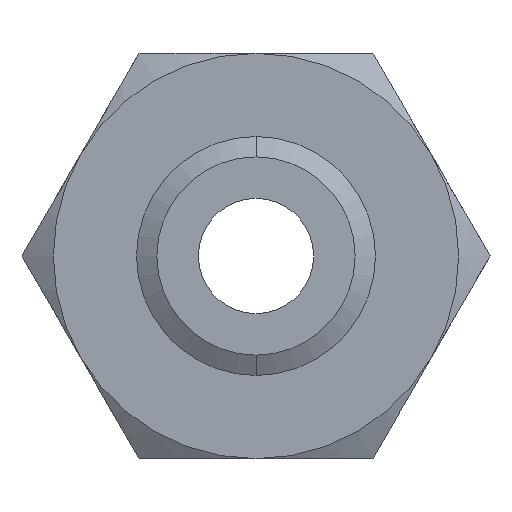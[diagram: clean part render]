
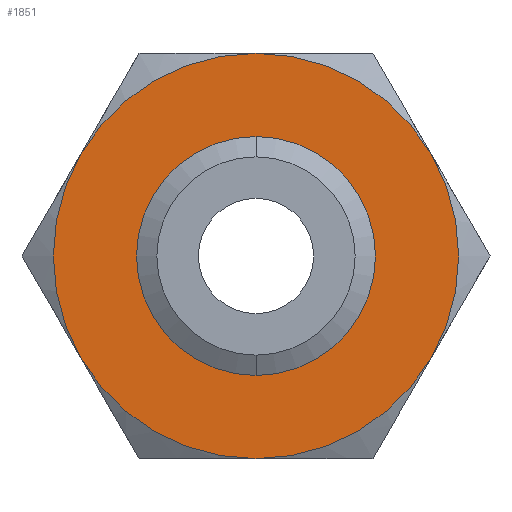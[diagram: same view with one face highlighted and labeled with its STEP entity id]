
A CAD part, front view. The second image highlights one B-rep face of the part: STEP entity #1851.
In plain terms, the highlighted planar face has unit normal (0, -1, 0).
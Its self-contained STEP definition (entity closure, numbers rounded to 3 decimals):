
#31 = EDGE_CURVE ( 'NONE', #233, #232, #314, .T. ) ;
#231 = EDGE_CURVE ( 'NONE', #232, #233, #714, .T. ) ;
#232 = VERTEX_POINT ( 'NONE', #706 ) ;
#233 = VERTEX_POINT ( 'NONE', #705 ) ;
#310 = DIRECTION ( 'NONE',  ( 0., 0., -1. ) ) ;
#311 = DIRECTION ( 'NONE',  ( 0., -1., 0. ) ) ;
#312 = CARTESIAN_POINT ( 'NONE',  ( 0., 0., 0. ) ) ;
#313 = AXIS2_PLACEMENT_3D ( 'NONE', #312, #311, #310 ) ;
#314 = CIRCLE ( 'NONE', #313, 23.237 ) ;
#705 = CARTESIAN_POINT ( 'NONE',  ( 0., 0., 23.237 ) ) ;
#706 = CARTESIAN_POINT ( 'NONE',  ( 0., 0., -23.237 ) ) ;
#707 = DIRECTION ( 'NONE',  ( 0., 0., -1. ) ) ;
#708 = DIRECTION ( 'NONE',  ( 0., -1., 0. ) ) ;
#709 = CARTESIAN_POINT ( 'NONE',  ( 0., 0., 0. ) ) ;
#710 = AXIS2_PLACEMENT_3D ( 'NONE', #709, #708, #707 ) ;
#714 = CIRCLE ( 'NONE', #710, 23.237 ) ;
#828 = CARTESIAN_POINT ( 'NONE',  ( 0., 0., 0. ) ) ;
#829 = CIRCLE ( 'NONE', #891, 47.5 ) ;
#833 = CARTESIAN_POINT ( 'NONE',  ( -41.136, 0., 23.75 ) ) ;
#858 = DIRECTION ( 'NONE',  ( 0., 0., 1. ) ) ;
#859 = DIRECTION ( 'NONE',  ( 0., 1., 0. ) ) ;
#860 = CARTESIAN_POINT ( 'NONE',  ( 0., 0., 0. ) ) ;
#861 = AXIS2_PLACEMENT_3D ( 'NONE', #860, #859, #858 ) ;
#862 = CIRCLE ( 'NONE', #861, 47.5 ) ;
#863 = DIRECTION ( 'NONE',  ( 0., 0., 1. ) ) ;
#864 = DIRECTION ( 'NONE',  ( 0., 1., 0. ) ) ;
#865 = CARTESIAN_POINT ( 'NONE',  ( 0., 0., 0. ) ) ;
#866 = AXIS2_PLACEMENT_3D ( 'NONE', #865, #864, #863 ) ;
#867 = CIRCLE ( 'NONE', #866, 47.5 ) ;
#868 = CARTESIAN_POINT ( 'NONE',  ( 41.136, 0., 23.75 ) ) ;
#869 = CARTESIAN_POINT ( 'NONE',  ( 0., 0., 47.5 ) ) ;
#870 = CARTESIAN_POINT ( 'NONE',  ( 41.136, 0., -23.75 ) ) ;
#873 = DIRECTION ( 'NONE',  ( 0., 0., 1. ) ) ;
#874 = DIRECTION ( 'NONE',  ( 0., 1., 0. ) ) ;
#875 = CARTESIAN_POINT ( 'NONE',  ( 0., 0., 0. ) ) ;
#876 = AXIS2_PLACEMENT_3D ( 'NONE', #875, #874, #873 ) ;
#877 = CIRCLE ( 'NONE', #876, 47.5 ) ;
#883 = CARTESIAN_POINT ( 'NONE',  ( -41.136, 0., -23.75 ) ) ;
#884 = DIRECTION ( 'NONE',  ( 0., 0., 1. ) ) ;
#885 = DIRECTION ( 'NONE',  ( 0., 1., 0. ) ) ;
#886 = CARTESIAN_POINT ( 'NONE',  ( 0., 0., 0. ) ) ;
#887 = AXIS2_PLACEMENT_3D ( 'NONE', #886, #885, #884 ) ;
#888 = CIRCLE ( 'NONE', #887, 47.5 ) ;
#889 = DIRECTION ( 'NONE',  ( 0., 0., 1. ) ) ;
#890 = DIRECTION ( 'NONE',  ( 0., 1., 0. ) ) ;
#891 = AXIS2_PLACEMENT_3D ( 'NONE', #828, #890, #889 ) ;
#902 = DIRECTION ( 'NONE',  ( 0., 0., 1. ) ) ;
#903 = DIRECTION ( 'NONE',  ( 0., 1., 0. ) ) ;
#904 = CARTESIAN_POINT ( 'NONE',  ( 0., 0., 0. ) ) ;
#905 = AXIS2_PLACEMENT_3D ( 'NONE', #904, #903, #902 ) ;
#906 = DIRECTION ( 'NONE',  ( 0., 0., 1. ) ) ;
#907 = DIRECTION ( 'NONE',  ( 0., 1., 0. ) ) ;
#908 = CIRCLE ( 'NONE', #905, 47.5 ) ;
#909 = CARTESIAN_POINT ( 'NONE',  ( 27.424, 0., -47.5 ) ) ;
#910 = AXIS2_PLACEMENT_3D ( 'NONE', #909, #907, #906 ) ;
#911 = PLANE ( 'NONE',  #910 ) ;
#912 = FACE_BOUND ( 'NONE', #1846, .T. ) ;
#913 = FACE_OUTER_BOUND ( 'NONE', #1847, .T. ) ;
#922 = CARTESIAN_POINT ( 'NONE',  ( 0., 0., -47.5 ) ) ;
#1823 = VERTEX_POINT ( 'NONE', #833 ) ;
#1824 = ORIENTED_EDGE ( 'NONE', *, *, #1839, .F. ) ;
#1825 = EDGE_CURVE ( 'NONE', #1823, #1838, #829, .T. ) ;
#1826 = EDGE_CURVE ( 'NONE', #1828, #1823, #888, .T. ) ;
#1827 = ORIENTED_EDGE ( 'NONE', *, *, #31, .F. ) ;
#1828 = VERTEX_POINT ( 'NONE', #883 ) ;
#1830 = EDGE_CURVE ( 'NONE', #1836, #1842, #877, .T. ) ;
#1831 = ORIENTED_EDGE ( 'NONE', *, *, #1830, .F. ) ;
#1833 = ORIENTED_EDGE ( 'NONE', *, *, #1825, .F. ) ;
#1835 = ORIENTED_EDGE ( 'NONE', *, *, #1826, .F. ) ;
#1836 = VERTEX_POINT ( 'NONE', #870 ) ;
#1837 = ORIENTED_EDGE ( 'NONE', *, *, #1852, .F. ) ;
#1838 = VERTEX_POINT ( 'NONE', #869 ) ;
#1839 = EDGE_CURVE ( 'NONE', #1842, #1828, #867, .T. ) ;
#1840 = VERTEX_POINT ( 'NONE', #868 ) ;
#1841 = EDGE_CURVE ( 'NONE', #1838, #1840, #862, .T. ) ;
#1842 = VERTEX_POINT ( 'NONE', #922 ) ;
#1846 = EDGE_LOOP ( 'NONE', ( #1853, #1827 ) ) ;
#1847 = EDGE_LOOP ( 'NONE', ( #1850, #1833, #1835, #1824, #1831, #1837 ) ) ;
#1850 = ORIENTED_EDGE ( 'NONE', *, *, #1841, .F. ) ;
#1851 = ADVANCED_FACE ( 'NONE', ( #913, #912 ), #911, .F. ) ;
#1852 = EDGE_CURVE ( 'NONE', #1840, #1836, #908, .T. ) ;
#1853 = ORIENTED_EDGE ( 'NONE', *, *, #231, .F. ) ;
